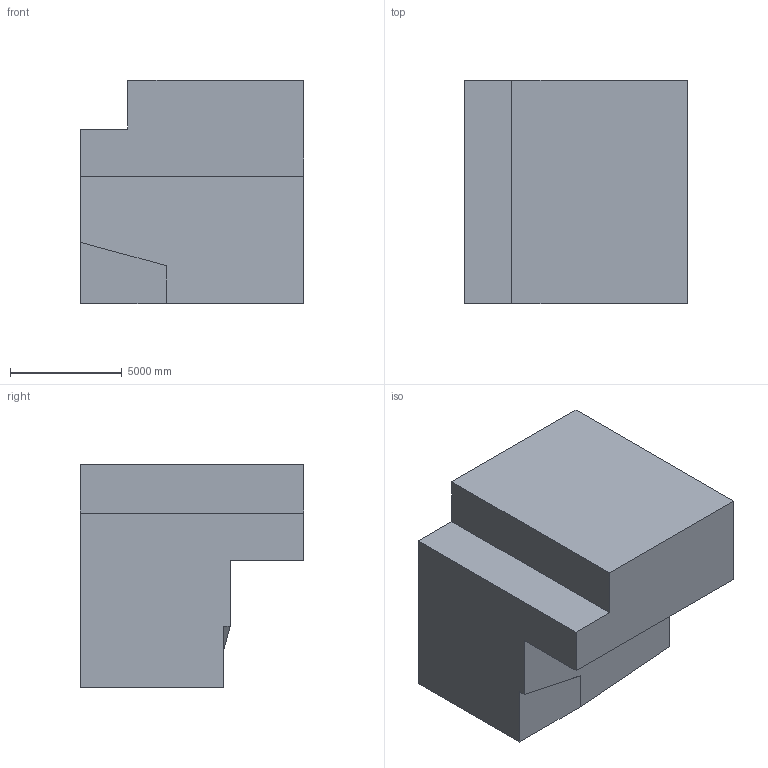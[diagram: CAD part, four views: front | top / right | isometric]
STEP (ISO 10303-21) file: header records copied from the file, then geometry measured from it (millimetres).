
FILE_DESCRIPTION (( 'STEP AP203' ), '1' );
FILE_NAME ('41.STEP', '2022-08-31T11:15:26', ( 'user' ), ( '' ), 'SwSTEP 2.0', 'SolidWorks 2021', '' );
FILE_SCHEMA (( 'CONFIG_CONTROL_DESIGN' ));
Length unit declared in the file: centimetre
Products named in the file (1): 41
Bounding box: 10000 x 10000 x 10000 mm (x, y, z)
Volume: 742860817774.9 mm3; surface area: 548198448.6 mm2
Topology: 1 solids, 1 shells, 12 faces, 30 edges, 20 vertices
Faces by surface type: plane 12
Entity records: 431 total; most frequent: CARTESIAN_POINT 63, ORIENTED_EDGE 60, DIRECTION 56, VECTOR 30, LINE 30, EDGE_CURVE 30, VERTEX_POINT 20, AXIS2_PLACEMENT_3D 13
